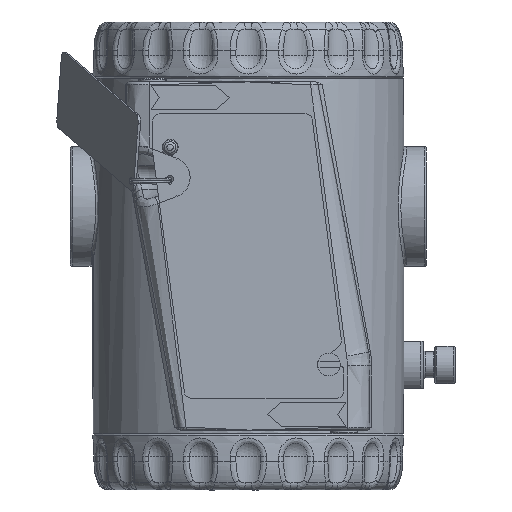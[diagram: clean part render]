
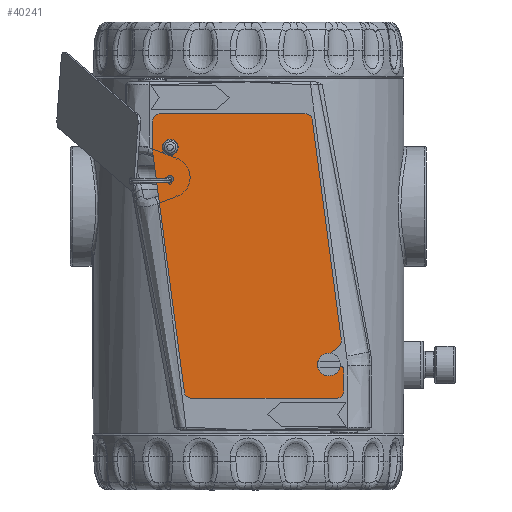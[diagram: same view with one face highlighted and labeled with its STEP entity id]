
A CAD part, left-side view. The second image highlights one B-rep face of the part: STEP entity #40241.
In plain terms, the highlighted planar face has unit normal (-1, 0, 0) as drawn and (0, 0, 1) by its records, which use the part's own axes.
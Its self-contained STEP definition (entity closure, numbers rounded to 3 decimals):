
#1175=PLANE('',#44721);
#1851=FACE_BOUND('',#10397,.T.);
#1852=FACE_BOUND('',#10398,.T.);
#3251=LINE('',#83684,#5006);
#3255=LINE('',#83696,#5010);
#3259=LINE('',#83708,#5014);
#3263=LINE('',#83720,#5018);
#3267=LINE('',#83732,#5022);
#3270=LINE('',#83738,#5025);
#3274=LINE('',#83750,#5029);
#3278=LINE('',#83761,#5033);
#5006=VECTOR('',#53839,10.);
#5010=VECTOR('',#53851,10.);
#5014=VECTOR('',#53863,10.);
#5018=VECTOR('',#53875,10.);
#5022=VECTOR('',#53887,10.);
#5025=VECTOR('',#53892,10.);
#5029=VECTOR('',#53904,10.);
#5033=VECTOR('',#53916,10.);
#7783=FACE_OUTER_BOUND('',#10396,.T.);
#10396=EDGE_LOOP('',(#33181,#33182,#33183,#33184,#33185,#33186,#33187,#33188,
#33189,#33190,#33191,#33192,#33193,#33194,#33195));
#10397=EDGE_LOOP('',(#33196));
#10398=EDGE_LOOP('',(#33197));
#13092=CIRCLE('',#44687,1.35);
#13094=CIRCLE('',#44690,1.);
#13095=CIRCLE('',#44692,2.);
#13097=CIRCLE('',#44696,2.);
#13099=CIRCLE('',#44700,1.);
#13101=CIRCLE('',#44704,2.);
#13103=CIRCLE('',#44708,2.);
#13105=CIRCLE('',#44713,2.);
#13107=CIRCLE('',#44717,2.);
#17923=VERTEX_POINT('',#83664);
#17925=VERTEX_POINT('',#83670);
#17926=VERTEX_POINT('',#83674);
#17927=VERTEX_POINT('',#83675);
#17930=VERTEX_POINT('',#83683);
#17932=VERTEX_POINT('',#83689);
#17934=VERTEX_POINT('',#83695);
#17936=VERTEX_POINT('',#83701);
#17938=VERTEX_POINT('',#83707);
#17940=VERTEX_POINT('',#83713);
#17942=VERTEX_POINT('',#83719);
#17944=VERTEX_POINT('',#83725);
#17946=VERTEX_POINT('',#83731);
#17948=VERTEX_POINT('',#83737);
#17950=VERTEX_POINT('',#83743);
#17952=VERTEX_POINT('',#83749);
#17954=VERTEX_POINT('',#83755);
#23159=EDGE_CURVE('',#17923,#17923,#13092,.T.);
#23162=EDGE_CURVE('',#17925,#17925,#13094,.T.);
#23163=EDGE_CURVE('',#17926,#17927,#13095,.T.);
#23167=EDGE_CURVE('',#17927,#17930,#3251,.T.);
#23170=EDGE_CURVE('',#17930,#17932,#13097,.T.);
#23173=EDGE_CURVE('',#17932,#17934,#3255,.T.);
#23176=EDGE_CURVE('',#17934,#17936,#13099,.T.);
#23179=EDGE_CURVE('',#17936,#17938,#3259,.T.);
#23182=EDGE_CURVE('',#17938,#17940,#13101,.T.);
#23185=EDGE_CURVE('',#17940,#17942,#3263,.T.);
#23188=EDGE_CURVE('',#17942,#17944,#13103,.T.);
#23191=EDGE_CURVE('',#17944,#17946,#3267,.T.);
#23194=EDGE_CURVE('',#17946,#17948,#3270,.T.);
#23197=EDGE_CURVE('',#17948,#17950,#13105,.T.);
#23200=EDGE_CURVE('',#17950,#17952,#3274,.T.);
#23203=EDGE_CURVE('',#17952,#17954,#13107,.T.);
#23206=EDGE_CURVE('',#17954,#17926,#3278,.T.);
#33181=ORIENTED_EDGE('',*,*,#23163,.F.);
#33182=ORIENTED_EDGE('',*,*,#23206,.F.);
#33183=ORIENTED_EDGE('',*,*,#23203,.F.);
#33184=ORIENTED_EDGE('',*,*,#23200,.F.);
#33185=ORIENTED_EDGE('',*,*,#23197,.F.);
#33186=ORIENTED_EDGE('',*,*,#23194,.F.);
#33187=ORIENTED_EDGE('',*,*,#23191,.F.);
#33188=ORIENTED_EDGE('',*,*,#23188,.F.);
#33189=ORIENTED_EDGE('',*,*,#23185,.F.);
#33190=ORIENTED_EDGE('',*,*,#23182,.F.);
#33191=ORIENTED_EDGE('',*,*,#23179,.F.);
#33192=ORIENTED_EDGE('',*,*,#23176,.F.);
#33193=ORIENTED_EDGE('',*,*,#23173,.F.);
#33194=ORIENTED_EDGE('',*,*,#23170,.F.);
#33195=ORIENTED_EDGE('',*,*,#23167,.F.);
#33196=ORIENTED_EDGE('',*,*,#23159,.T.);
#33197=ORIENTED_EDGE('',*,*,#23162,.T.);
#40241=ADVANCED_FACE('',(#7783,#1851,#1852),#1175,.T.);
#44687=AXIS2_PLACEMENT_3D('',#83666,#53820,#53821);
#44690=AXIS2_PLACEMENT_3D('',#83672,#53827,#53828);
#44692=AXIS2_PLACEMENT_3D('',#83676,#53831,#53832);
#44696=AXIS2_PLACEMENT_3D('',#83690,#53844,#53845);
#44700=AXIS2_PLACEMENT_3D('',#83702,#53856,#53857);
#44704=AXIS2_PLACEMENT_3D('',#83714,#53868,#53869);
#44708=AXIS2_PLACEMENT_3D('',#83726,#53880,#53881);
#44713=AXIS2_PLACEMENT_3D('',#83744,#53897,#53898);
#44717=AXIS2_PLACEMENT_3D('',#83756,#53909,#53910);
#44721=AXIS2_PLACEMENT_3D('',#83764,#53920,#53921);
#53820=DIRECTION('center_axis',(0.,0.,-1.));
#53821=DIRECTION('ref_axis',(-1.,0.,0.));
#53827=DIRECTION('center_axis',(0.,0.,-1.));
#53828=DIRECTION('ref_axis',(-1.,0.,0.));
#53831=DIRECTION('center_axis',(0.,0.,-1.));
#53832=DIRECTION('ref_axis',(0.766,0.643,0.));
#53839=DIRECTION('',(0.643,-0.766,0.));
#53844=DIRECTION('center_axis',(0.,0.,1.));
#53845=DIRECTION('ref_axis',(0.766,0.643,0.));
#53851=DIRECTION('',(-0.643,0.766,0.));
#53856=DIRECTION('center_axis',(0.,0.,-1.));
#53857=DIRECTION('ref_axis',(0.,1.,0.));
#53863=DIRECTION('',(1.,0.,0.));
#53868=DIRECTION('center_axis',(0.,0.,-1.));
#53869=DIRECTION('ref_axis',(1.,0.,0.));
#53875=DIRECTION('',(0.,-1.,0.));
#53880=DIRECTION('center_axis',(0.,0.,-1.));
#53881=DIRECTION('ref_axis',(0.131,-0.991,0.));
#53887=DIRECTION('',(-0.991,-0.131,0.));
#53892=DIRECTION('',(-1.,0.,0.));
#53897=DIRECTION('center_axis',(0.,0.,-1.));
#53898=DIRECTION('ref_axis',(-1.,0.,0.));
#53904=DIRECTION('',(0.,1.,0.));
#53909=DIRECTION('center_axis',(0.,0.,-1.));
#53910=DIRECTION('ref_axis',(-0.131,0.991,0.));
#53916=DIRECTION('',(0.991,0.131,0.));
#53920=DIRECTION('center_axis',(0.,0.,1.));
#53921=DIRECTION('ref_axis',(1.,0.,0.));
#83664=CARTESIAN_POINT('',(10.35,4.599,0.7));
#83666=CARTESIAN_POINT('Origin',(9.,4.599,0.7));
#83670=CARTESIAN_POINT('',(18.4,4.599,0.7));
#83672=CARTESIAN_POINT('Origin',(17.4,4.599,0.7));
#83674=CARTESIAN_POINT('',(60.389,50.327,0.7));
#83675=CARTESIAN_POINT('',(62.182,49.63,0.7));
#83676=CARTESIAN_POINT('Origin',(60.65,48.344,0.7));
#83683=CARTESIAN_POINT('',(65.468,45.714,0.7));
#83684=CARTESIAN_POINT('',(65.468,45.714,0.7));
#83689=CARTESIAN_POINT('',(68.532,48.286,0.7));
#83690=CARTESIAN_POINT('Origin',(67.,47.,0.7));
#83695=CARTESIAN_POINT('',(67.633,49.357,0.7));
#83696=CARTESIAN_POINT('',(67.633,49.357,0.7));
#83701=CARTESIAN_POINT('',(68.399,51.,0.7));
#83702=CARTESIAN_POINT('Origin',(68.399,50.,0.7));
#83707=CARTESIAN_POINT('',(74.,51.,0.7));
#83708=CARTESIAN_POINT('',(74.,51.,0.7));
#83713=CARTESIAN_POINT('',(76.,49.,0.7));
#83714=CARTESIAN_POINT('Origin',(74.,49.,0.7));
#83719=CARTESIAN_POINT('',(76.,10.377,0.7));
#83720=CARTESIAN_POINT('',(76.,10.377,0.7));
#83725=CARTESIAN_POINT('',(74.261,8.394,0.7));
#83726=CARTESIAN_POINT('Origin',(74.,10.377,0.7));
#83731=CARTESIAN_POINT('',(10.5,0.,0.7));
#83732=CARTESIAN_POINT('',(10.5,0.,0.7));
#83737=CARTESIAN_POINT('',(2.,0.,0.7));
#83738=CARTESIAN_POINT('',(2.,0.,0.7));
#83743=CARTESIAN_POINT('',(0.,2.,0.7));
#83744=CARTESIAN_POINT('Origin',(2.,2.,0.7));
#83749=CARTESIAN_POINT('',(0.,40.623,0.7));
#83750=CARTESIAN_POINT('',(0.,40.623,0.7));
#83755=CARTESIAN_POINT('',(1.739,42.606,0.7));
#83756=CARTESIAN_POINT('Origin',(2.,40.623,0.7));
#83761=CARTESIAN_POINT('',(60.389,50.327,0.7));
#83764=CARTESIAN_POINT('Origin',(39.077,26.228,0.7));
